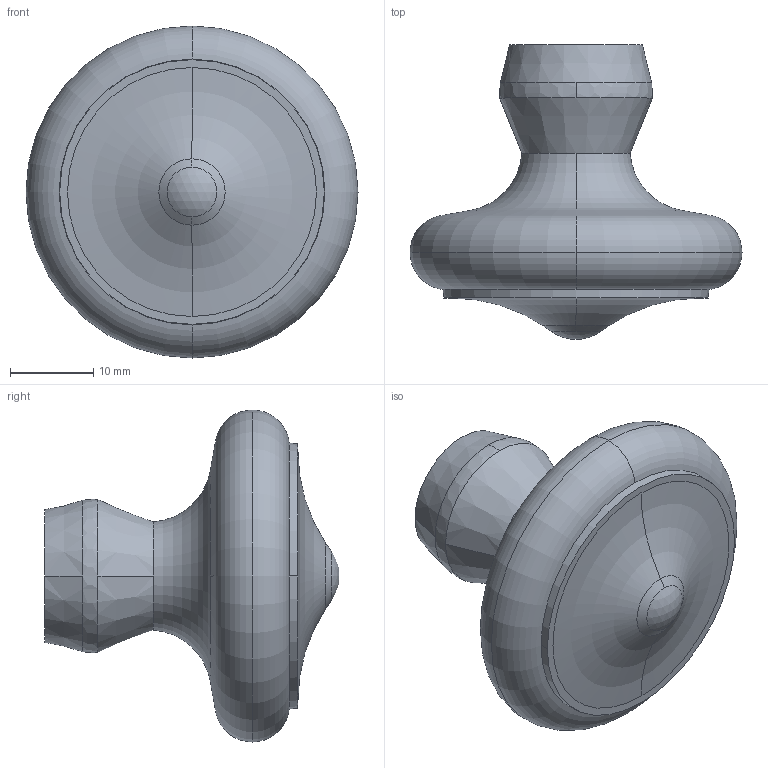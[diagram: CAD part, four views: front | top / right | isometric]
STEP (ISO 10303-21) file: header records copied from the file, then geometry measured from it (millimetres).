
FILE_DESCRIPTION( ( '' ), '1' );
FILE_NAME( 'C:/Documents and Settings/Nikhil/Desktop/Nik/Done/9112646.stp', '2013-10-23T11:57:08', ( '' ), ( '' ), ' ', ' ', ' ' );
FILE_SCHEMA( ( 'automotive_design' ) );
Length unit declared in the file: millimetre
Products named in the file (1): 1
Bounding box: 40 x 35.47 x 40 mm (x, y, z)
Volume: 16312.6 mm3; surface area: 4390.3 mm2
Topology: 1 solids, 1 shells, 26 faces, 65 edges, 43 vertices
Faces by surface type: torus 12, cone 8, plane 3, cylinder 2, sphere 1
Entity records: 1588 total; most frequent: DIRECTION 174, STYLED_ITEM 135, PRESENTATION_STYLE_ASSIGNMENT 135, CARTESIAN_POINT 135, COLOUR_RGB 135, ORIENTED_EDGE 130, AXIS2_PLACEMENT_3D 82, EDGE_CURVE 65
